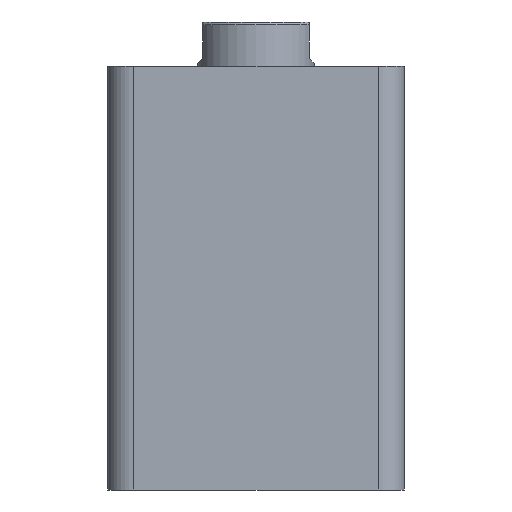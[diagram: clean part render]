
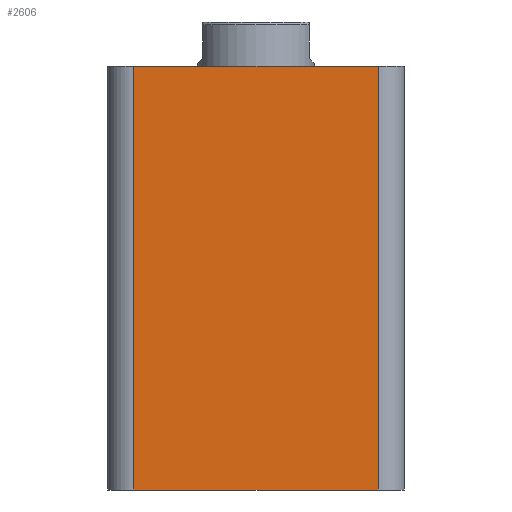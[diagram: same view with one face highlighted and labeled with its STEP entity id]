
A CAD part, front view. The second image highlights one B-rep face of the part: STEP entity #2606.
In plain terms, the highlighted planar face has unit normal (0, -1, 0).
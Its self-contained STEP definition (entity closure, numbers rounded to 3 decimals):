
#87 = ORIENTED_EDGE ( 'NONE', *, *, #680, .T. ) ;
#230 = CARTESIAN_POINT ( 'NONE',  ( 47., -57., 163. ) ) ;
#240 = CARTESIAN_POINT ( 'NONE',  ( -57., -57., 0. ) ) ;
#241 = DIRECTION ( 'NONE',  ( 1., 0., 0. ) ) ;
#242 = DIRECTION ( 'NONE',  ( 0., 0., 1. ) ) ;
#243 = CARTESIAN_POINT ( 'NONE',  ( -57., -57., 163. ) ) ;
#244 = DIRECTION ( 'NONE',  ( 1., 0., 0. ) ) ;
#245 = CARTESIAN_POINT ( 'NONE',  ( -47., -57., 163. ) ) ;
#246 = DIRECTION ( 'NONE',  ( 0., 0., -1. ) ) ;
#576 = VECTOR ( 'NONE', #246, 1000. ) ;
#578 = VECTOR ( 'NONE', #244, 1000. ) ;
#579 = LINE ( 'NONE', #245, #576 ) ;
#580 = VECTOR ( 'NONE', #242, 1000. ) ;
#581 = LINE ( 'NONE', #230, #580 ) ;
#582 = LINE ( 'NONE', #243, #578 ) ;
#583 = VECTOR ( 'NONE', #241, 1000. ) ;
#586 = LINE ( 'NONE', #240, #583 ) ;
#677 = EDGE_CURVE ( 'NONE', #2416, #2427, #586, .T. ) ;
#678 = EDGE_CURVE ( 'NONE', #2427, #2430, #581, .T. ) ;
#679 = EDGE_CURVE ( 'NONE', #2429, #2430, #582, .T. ) ;
#680 = EDGE_CURVE ( 'NONE', #2429, #2416, #579, .T. ) ;
#810 = CARTESIAN_POINT ( 'NONE',  ( -47., -57., 0. ) ) ;
#821 = CARTESIAN_POINT ( 'NONE',  ( 47., -57., 0. ) ) ;
#823 = CARTESIAN_POINT ( 'NONE',  ( -47., -57., 163. ) ) ;
#824 = CARTESIAN_POINT ( 'NONE',  ( 47., -57., 163. ) ) ;
#1123 = ORIENTED_EDGE ( 'NONE', *, *, #679, .F. ) ;
#1163 = ORIENTED_EDGE ( 'NONE', *, *, #678, .T. ) ;
#1166 = ORIENTED_EDGE ( 'NONE', *, *, #677, .T. ) ;
#1373 = CARTESIAN_POINT ( 'NONE',  ( -57., -57., 163. ) ) ;
#1375 = PLANE ( 'NONE',  #2251 ) ;
#1377 = DIRECTION ( 'NONE',  ( 0., 1., 0. ) ) ;
#1378 = DIRECTION ( 'NONE',  ( 0., 0., 1. ) ) ;
#2092 = FACE_OUTER_BOUND ( 'NONE', #2491, .T. ) ;
#2251 = AXIS2_PLACEMENT_3D ( 'NONE', #1373, #1377, #1378 ) ;
#2416 = VERTEX_POINT ( 'NONE', #810 ) ;
#2427 = VERTEX_POINT ( 'NONE', #821 ) ;
#2429 = VERTEX_POINT ( 'NONE', #823 ) ;
#2430 = VERTEX_POINT ( 'NONE', #824 ) ;
#2491 = EDGE_LOOP ( 'NONE', ( #1166, #1163, #1123, #87 ) ) ;
#2606 = ADVANCED_FACE ( 'NONE', ( #2092 ), #1375, .F. ) ;
